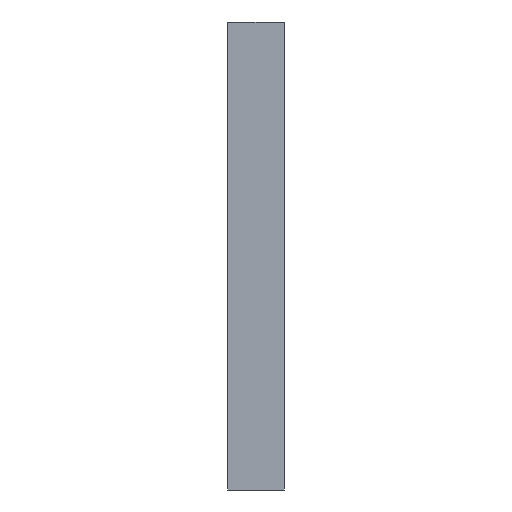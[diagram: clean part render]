
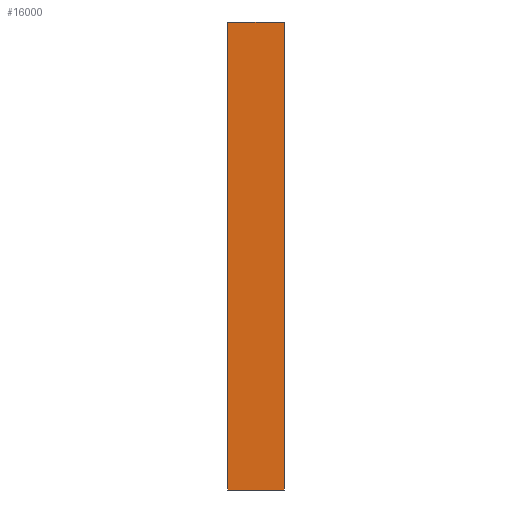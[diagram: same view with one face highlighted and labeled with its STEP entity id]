
A CAD part, left-side view. The second image highlights one B-rep face of the part: STEP entity #16000.
In plain terms, the highlighted planar face has unit normal (-1, 0, 0).
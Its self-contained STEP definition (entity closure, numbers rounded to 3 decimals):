
#563 = LINE ( 'NONE', #2816, #22734 ) ;
#958 = ORIENTED_EDGE ( 'NONE', *, *, #14713, .T. ) ;
#1475 = DIRECTION ( 'NONE',  ( 0., -1., 0. ) ) ;
#1572 = VERTEX_POINT ( 'NONE', #5394 ) ;
#1701 = VERTEX_POINT ( 'NONE', #27663 ) ;
#1846 = VECTOR ( 'NONE', #21868, 1000. ) ;
#2456 = ORIENTED_EDGE ( 'NONE', *, *, #6253, .F. ) ;
#2816 = CARTESIAN_POINT ( 'NONE',  ( -277.795, 770.683, 220.024 ) ) ;
#5394 = CARTESIAN_POINT ( 'NONE',  ( -277.795, 52.346, -215.007 ) ) ;
#5846 = DIRECTION ( 'NONE',  ( 0., 0., 1. ) ) ;
#5983 = DIRECTION ( 'NONE',  ( -1., 0., 0. ) ) ;
#6132 = LINE ( 'NONE', #14858, #9614 ) ;
#6253 = EDGE_CURVE ( 'NONE', #19208, #1701, #15374, .T. ) ;
#7834 = FACE_OUTER_BOUND ( 'NONE', #15182, .T. ) ;
#9614 = VECTOR ( 'NONE', #1475, 1000. ) ;
#11612 = LINE ( 'NONE', #16265, #12811 ) ;
#12052 = CARTESIAN_POINT ( 'NONE',  ( -277.795, 770.683, 220.024 ) ) ;
#12811 = VECTOR ( 'NONE', #14018, 1000. ) ;
#14018 = DIRECTION ( 'NONE',  ( 0., 0., -1. ) ) ;
#14713 = EDGE_CURVE ( 'NONE', #1572, #1701, #6132, .T. ) ;
#14858 = CARTESIAN_POINT ( 'NONE',  ( -277.795, 770.683, -215.007 ) ) ;
#14996 = AXIS2_PLACEMENT_3D ( 'NONE', #12052, #5983, #5846 ) ;
#15182 = EDGE_LOOP ( 'NONE', ( #22804, #17336, #958, #2456 ) ) ;
#15374 = LINE ( 'NONE', #25686, #1846 ) ;
#16000 = ADVANCED_FACE ( 'NONE', ( #7834 ), #20942, .T. ) ;
#16265 = CARTESIAN_POINT ( 'NONE',  ( -277.795, 52.346, 220.024 ) ) ;
#17336 = ORIENTED_EDGE ( 'NONE', *, *, #23454, .T. ) ;
#18105 = CARTESIAN_POINT ( 'NONE',  ( -277.795, 52.346, 220.024 ) ) ;
#19208 = VERTEX_POINT ( 'NONE', #19847 ) ;
#19847 = CARTESIAN_POINT ( 'NONE',  ( -277.795, 0.202, 220.024 ) ) ;
#20942 = PLANE ( 'NONE',  #14996 ) ;
#21868 = DIRECTION ( 'NONE',  ( 0., 0., -1. ) ) ;
#22734 = VECTOR ( 'NONE', #23977, 1000. ) ;
#22804 = ORIENTED_EDGE ( 'NONE', *, *, #24854, .F. ) ;
#23454 = EDGE_CURVE ( 'NONE', #25991, #1572, #11612, .T. ) ;
#23977 = DIRECTION ( 'NONE',  ( 0., -1., 0. ) ) ;
#24854 = EDGE_CURVE ( 'NONE', #25991, #19208, #563, .T. ) ;
#25686 = CARTESIAN_POINT ( 'NONE',  ( -277.795, 0.202, 220.024 ) ) ;
#25991 = VERTEX_POINT ( 'NONE', #18105 ) ;
#27663 = CARTESIAN_POINT ( 'NONE',  ( -277.795, 0.203, -215.007 ) ) ;
